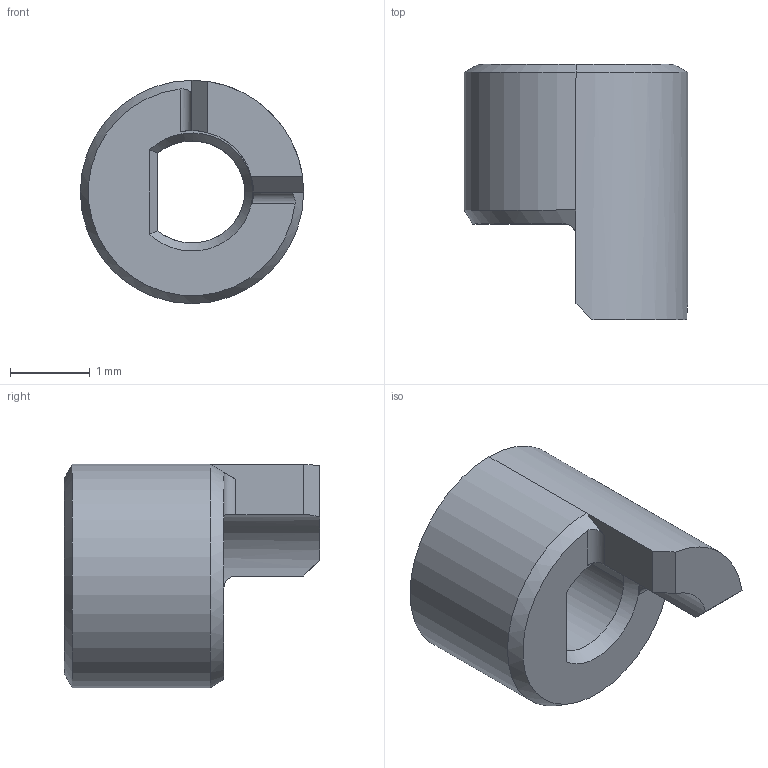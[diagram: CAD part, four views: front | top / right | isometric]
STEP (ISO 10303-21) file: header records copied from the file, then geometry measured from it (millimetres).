
FILE_DESCRIPTION (( 'STEP AP214' ), '1' );
FILE_NAME ('TRL-0051-A.STEP', '2021-06-28T15:30:16', ( '' ), ( '' ), 'SwSTEP 2.0', 'SolidWorks 2016', '' );
FILE_SCHEMA (( 'AUTOMOTIVE_DESIGN' ));
Length unit declared in the file: millimetre
Products named in the file (1): TRL-0051-A
Bounding box: 2.8 x 3.2 x 2.8 mm (x, y, z)
Volume: 11 mm3; surface area: 39.1 mm2
Topology: 1 solids, 1 shells, 22 faces, 53 edges, 33 vertices
Faces by surface type: plane 10, cylinder 5, bspline 4, cone 3
Entity records: 1538 total; most frequent: CARTESIAN_POINT 1036, ORIENTED_EDGE 106, DIRECTION 83, EDGE_CURVE 53, VERTEX_POINT 33, AXIS2_PLACEMENT_3D 29, VECTOR 25, LINE 25
